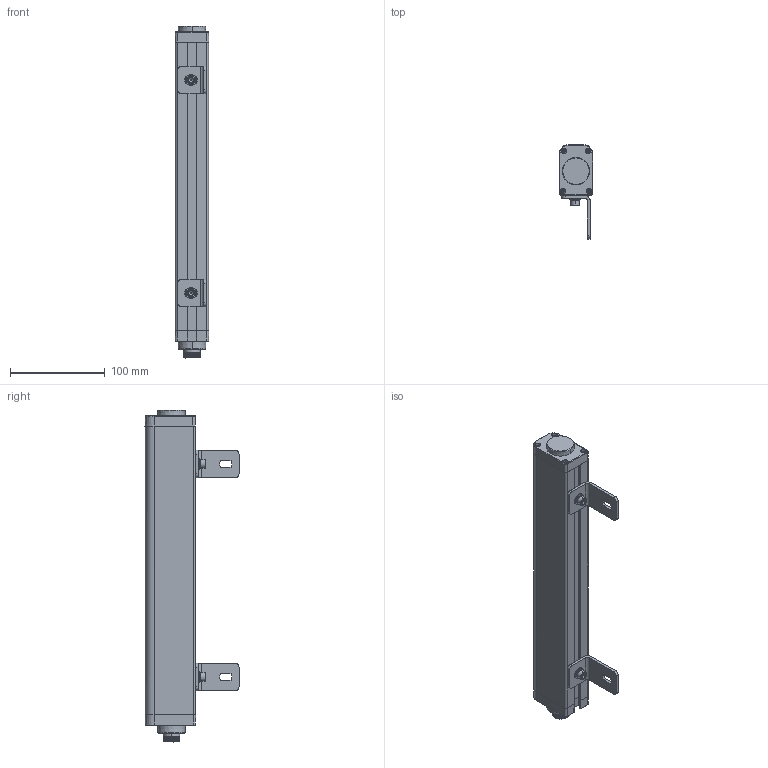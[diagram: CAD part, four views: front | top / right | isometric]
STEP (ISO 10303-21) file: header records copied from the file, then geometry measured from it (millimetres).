
FILE_DESCRIPTION((''),'2;1');
FILE_NAME('ESE8420_ASM','2021-07-12T12:21:55',('18720616900'),(''),'CREO PARAMETRIC BY PTC INC, 2019010','CREO PARAMETRIC BY PTC INC, 2019010','');
FILE_SCHEMA(('CONFIG_CONTROL_DESIGN'));
Length unit declared in the file: millimetre
Products named in the file (15): ESE--00; 000; ESE--000; HKCT2-1-SOLID1; HKCT11-1-SOLID1; 6_10001_ASM; ST-3-120001; L10001; M6-1-00; M6-1--00; M6-8--0001; 00; L1--0001_ASM; ESE8420_ASM
Assembly tree (22 placements, depth 3):
  ESE8420_ASM
    ESE--00
    000
    ESE--000
    ESE--000
    6_10001_ASM
      HKCT2-1-SOLID1
      HKCT11-1-SOLID1
    ST-3-120001  x8
    L1--0001_ASM  x2
      L10001
      M6-1-00
      M6-1--00
      M6-8--0001
      00
Bounding box: 35.3 x 99.3 x 350.58 mm (x, y, z)
Volume: 581890 mm3; surface area: 108652.2 mm2
Topology: 24 solids, 24 shells, 1203 faces, 3161 edges, 2022 vertices
Faces by surface type: plane 340, cylinder 306, cone 246, bspline 233, torus 64, sphere 14
Entity records: 41666 total; most frequent: CARTESIAN_POINT 27268, ORIENTED_EDGE 3088, DIRECTION 2720, EDGE_CURVE 1544, AXIS2_PLACEMENT_3D 1052, VERTEX_POINT 1019, EDGE_LOOP 661, VECTOR 616
